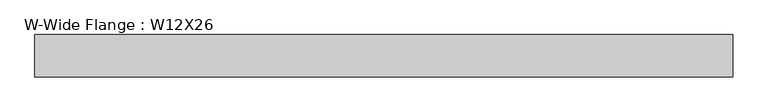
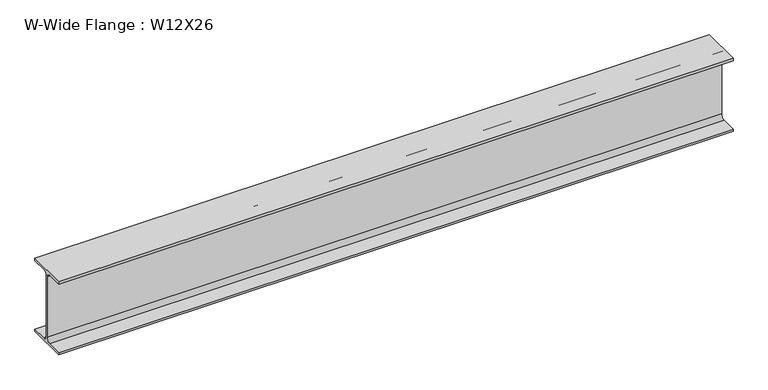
"""IFC4 building model written with IfcOpenShell, lengths in millimetres: beam geometry, W-Wide Flange : W12X26."""

from ifc_helpers import new_model, si_unit, point, frame, frame_2d, origin, place, context, project, spatial, polyline, circle_curve, trimmed, segment, composite_curve, outline, extrude, source, transform, mapped, element, save


def w_wide_flange_w12x26_563c1906(model_context):
    return source(origin(), model_context, "Body", "SweptSolid", [
        extrude(outline(composite_curve([segment(polyline([(-82.4011719, -145.5539063), (-20.2902344, -145.5539063)]), True, "CONTINUOUS"), segment(trimmed(circle_curve(frame_2d((-20.2902344, -128.190625)), 17.3632812), [point((-20.2902344, -145.5539063))], [point((-2.9269531, -128.190625))], True, "CARTESIAN"), True, "CONTINUOUS"), segment(polyline([(-2.9269531, -128.190625), (-2.9269531, 128.190625)]), True, "CONTINUOUS"), segment(trimmed(circle_curve(frame_2d((-20.2902344, 128.190625)), 17.3632812), [point((-2.9269531, 128.190625))], [point((-20.2902344, 145.5539062))], True, "CARTESIAN"), True, "CONTINUOUS"), segment(polyline([(-20.2902344, 145.5539062), (-82.4011719, 145.5539062), (-82.4011719, 155.178125), (82.4011719, 155.178125), (82.4011719, 145.5539062), (20.2902344, 145.5539062)]), True, "CONTINUOUS"), segment(trimmed(circle_curve(frame_2d((20.2902344, 128.190625)), 17.3632812), [point((20.2902344, 145.5539062))], [point((2.9269531, 128.190625))], True, "CARTESIAN"), True, "CONTINUOUS"), segment(polyline([(2.9269531, 128.190625), (2.9269531, -128.190625)]), True, "CONTINUOUS"), segment(trimmed(circle_curve(frame_2d((20.2902344, -128.190625)), 17.3632812), [point((2.9269531, -128.190625))], [point((20.2902344, -145.5539063))], True, "CARTESIAN"), True, "CONTINUOUS"), segment(polyline([(20.2902344, -145.5539063), (82.4011719, -145.5539063), (82.4011719, -155.178125), (-82.4011719, -155.178125), (-82.4011719, -145.5539063)]), True, "CONTINUOUS")], self_intersect=False)), frame((-1435.1, 0.0, 0.0), z_axis=(1.0, 0.0, 0.0), x_axis=(0.0, 1.0, 0.0)), (0.0, 0.0, 1.0), 2711.45),
    ])


if __name__ == "__main__":
    model = new_model("IFC4")
    model_context = context("Model", 3, world=origin())
    ifc_project = project(units=[si_unit("LENGTHUNIT", "METRE", prefix="MILLI")], contexts=[model_context])
    site = spatial("IfcSite", under=ifc_project)
    building = spatial("IfcBuilding", under=site)
    placement = place(None, origin())
    w_wide_flange_w12x26_shape = w_wide_flange_w12x26_563c1906(model_context)
    element("IfcBeam", 1, ObjectType="W-Wide Flange : W12X26", at=placement, inside=building, context=model_context, shape_type="MappedRepresentation", body=[
        mapped(w_wide_flange_w12x26_shape, transform((0.0, 0.0, 0.0), x_axis=(1.0, 0.0, 0.0), y_axis=(0.0, 1.0, 0.0), z_axis=(0.0, 0.0, 1.0))),
    ])
    save(model, "model.ifc")
